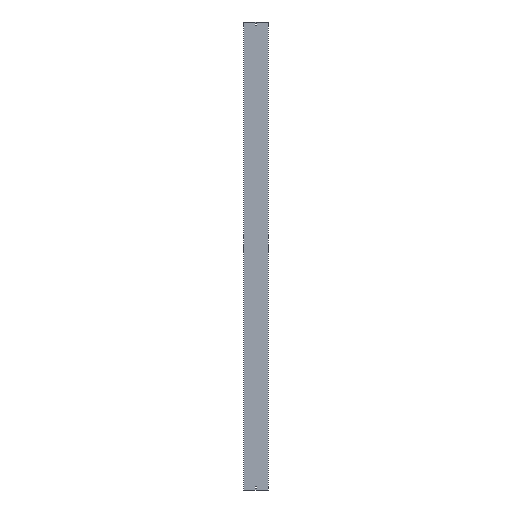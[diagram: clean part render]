
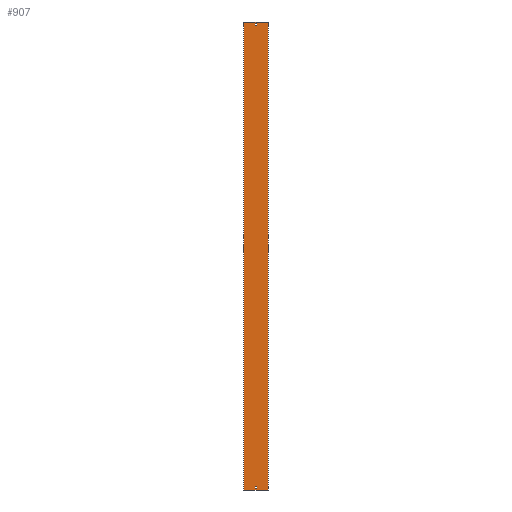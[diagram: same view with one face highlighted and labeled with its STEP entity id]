
A CAD part, front view. The second image highlights one B-rep face of the part: STEP entity #907.
In plain terms, the highlighted planar face has unit normal (0, -1, 0).
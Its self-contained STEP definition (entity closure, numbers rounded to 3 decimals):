
#10 = DIRECTION ( 'NONE',  ( -1., 0., 0. ) ) ;
#34 = ORIENTED_EDGE ( 'NONE', *, *, #1104, .F. ) ;
#46 = VERTEX_POINT ( 'NONE', #908 ) ;
#55 = LINE ( 'NONE', #238, #945 ) ;
#64 = CARTESIAN_POINT ( 'NONE',  ( 77., 0., -1500. ) ) ;
#87 = DIRECTION ( 'NONE',  ( 0., 0., -1. ) ) ;
#92 = LINE ( 'NONE', #801, #397 ) ;
#105 = LINE ( 'NONE', #635, #887 ) ;
#126 = FACE_OUTER_BOUND ( 'NONE', #954, .T. ) ;
#145 = ORIENTED_EDGE ( 'NONE', *, *, #696, .T. ) ;
#160 = ORIENTED_EDGE ( 'NONE', *, *, #614, .T. ) ;
#168 = CARTESIAN_POINT ( 'NONE',  ( -77., 0., 1500. ) ) ;
#181 = VERTEX_POINT ( 'NONE', #746 ) ;
#195 = CARTESIAN_POINT ( 'NONE',  ( -3.25, 0., 1488. ) ) ;
#200 = DIRECTION ( 'NONE',  ( -1., 0., 0. ) ) ;
#217 = EDGE_CURVE ( 'NONE', #446, #259, #922, .T. ) ;
#230 = EDGE_CURVE ( 'NONE', #453, #181, #55, .T. ) ;
#231 = VECTOR ( 'NONE', #405, 1000. ) ;
#238 = CARTESIAN_POINT ( 'NONE',  ( 3.25, 0., 1488. ) ) ;
#256 = LINE ( 'NONE', #951, #852 ) ;
#259 = VERTEX_POINT ( 'NONE', #64 ) ;
#260 = DIRECTION ( 'NONE',  ( 1., 0., 0. ) ) ;
#269 = VECTOR ( 'NONE', #200, 1000. ) ;
#270 = ORIENTED_EDGE ( 'NONE', *, *, #217, .T. ) ;
#308 = VECTOR ( 'NONE', #1062, 1000. ) ;
#333 = ORIENTED_EDGE ( 'NONE', *, *, #230, .F. ) ;
#341 = ORIENTED_EDGE ( 'NONE', *, *, #644, .T. ) ;
#358 = CARTESIAN_POINT ( 'NONE',  ( -3.25, 0., 1479. ) ) ;
#369 = VERTEX_POINT ( 'NONE', #990 ) ;
#394 = DIRECTION ( 'NONE',  ( -1., 0., 0. ) ) ;
#397 = VECTOR ( 'NONE', #643, 1000. ) ;
#405 = DIRECTION ( 'NONE',  ( 1., 0., 0. ) ) ;
#406 = ORIENTED_EDGE ( 'NONE', *, *, #554, .T. ) ;
#408 = CARTESIAN_POINT ( 'NONE',  ( -77., 0., 1500. ) ) ;
#423 = VERTEX_POINT ( 'NONE', #408 ) ;
#427 = VERTEX_POINT ( 'NONE', #750 ) ;
#443 = EDGE_LOOP ( 'NONE', ( #145, #341, #406, #840 ) ) ;
#446 = VERTEX_POINT ( 'NONE', #667 ) ;
#453 = VERTEX_POINT ( 'NONE', #1016 ) ;
#462 = ORIENTED_EDGE ( 'NONE', *, *, #927, .F. ) ;
#464 = EDGE_CURVE ( 'NONE', #181, #497, #719, .T. ) ;
#472 = LINE ( 'NONE', #985, #758 ) ;
#497 = VERTEX_POINT ( 'NONE', #601 ) ;
#534 = EDGE_CURVE ( 'NONE', #423, #606, #874, .T. ) ;
#551 = LINE ( 'NONE', #195, #965 ) ;
#554 = EDGE_CURVE ( 'NONE', #427, #1049, #256, .T. ) ;
#566 = CARTESIAN_POINT ( 'NONE',  ( -77., 0., 1500. ) ) ;
#601 = CARTESIAN_POINT ( 'NONE',  ( -3.25, 0., 1488. ) ) ;
#602 = VECTOR ( 'NONE', #260, 1000. ) ;
#606 = VERTEX_POINT ( 'NONE', #692 ) ;
#607 = LINE ( 'NONE', #168, #308 ) ;
#614 = EDGE_CURVE ( 'NONE', #423, #446, #607, .T. ) ;
#620 = LINE ( 'NONE', #358, #1103 ) ;
#635 = CARTESIAN_POINT ( 'NONE',  ( -3.25, 0., -1488. ) ) ;
#641 = DIRECTION ( 'NONE',  ( 0., 0., -1. ) ) ;
#643 = DIRECTION ( 'NONE',  ( 1., 0., 0. ) ) ;
#644 = EDGE_CURVE ( 'NONE', #1051, #427, #92, .T. ) ;
#667 = CARTESIAN_POINT ( 'NONE',  ( -77., 0., -1500. ) ) ;
#690 = EDGE_CURVE ( 'NONE', #46, #453, #620, .T. ) ;
#692 = CARTESIAN_POINT ( 'NONE',  ( 77., 0., 1500. ) ) ;
#696 = EDGE_CURVE ( 'NONE', #369, #1051, #105, .T. ) ;
#708 = ORIENTED_EDGE ( 'NONE', *, *, #534, .F. ) ;
#719 = LINE ( 'NONE', #1069, #269 ) ;
#723 = DIRECTION ( 'NONE',  ( 0., 0., 1. ) ) ;
#746 = CARTESIAN_POINT ( 'NONE',  ( 3.25, 0., 1488. ) ) ;
#749 = FACE_BOUND ( 'NONE', #950, .T. ) ;
#750 = CARTESIAN_POINT ( 'NONE',  ( 3.25, 0., -1479. ) ) ;
#751 = DIRECTION ( 'NONE',  ( 0., 0., 1. ) ) ;
#758 = VECTOR ( 'NONE', #10, 1000. ) ;
#774 = AXIS2_PLACEMENT_3D ( 'NONE', #566, #924, #394 ) ;
#788 = ORIENTED_EDGE ( 'NONE', *, *, #690, .F. ) ;
#801 = CARTESIAN_POINT ( 'NONE',  ( -3.25, 0., -1479. ) ) ;
#825 = CARTESIAN_POINT ( 'NONE',  ( 77., 0., 1500. ) ) ;
#833 = PLANE ( 'NONE',  #774 ) ;
#840 = ORIENTED_EDGE ( 'NONE', *, *, #1113, .T. ) ;
#852 = VECTOR ( 'NONE', #87, 1000. ) ;
#854 = CARTESIAN_POINT ( 'NONE',  ( -3.25, 0., -1479. ) ) ;
#869 = VECTOR ( 'NONE', #1093, 1000. ) ;
#871 = CARTESIAN_POINT ( 'NONE',  ( 3.25, 0., -1488. ) ) ;
#874 = LINE ( 'NONE', #955, #602 ) ;
#887 = VECTOR ( 'NONE', #723, 1000. ) ;
#907 = ADVANCED_FACE ( 'NONE', ( #126, #749, #931 ), #833, .F. ) ;
#908 = CARTESIAN_POINT ( 'NONE',  ( -3.25, 0., 1479. ) ) ;
#920 = LINE ( 'NONE', #825, #869 ) ;
#922 = LINE ( 'NONE', #939, #231 ) ;
#924 = DIRECTION ( 'NONE',  ( 0., 1., 0. ) ) ;
#927 = EDGE_CURVE ( 'NONE', #606, #259, #920, .T. ) ;
#931 = FACE_BOUND ( 'NONE', #443, .T. ) ;
#939 = CARTESIAN_POINT ( 'NONE',  ( -77., 0., -1500. ) ) ;
#945 = VECTOR ( 'NONE', #751, 1000. ) ;
#950 = EDGE_LOOP ( 'NONE', ( #788, #34, #1105, #333 ) ) ;
#951 = CARTESIAN_POINT ( 'NONE',  ( 3.25, 0., -1488. ) ) ;
#954 = EDGE_LOOP ( 'NONE', ( #270, #462, #708, #160 ) ) ;
#955 = CARTESIAN_POINT ( 'NONE',  ( -77., 0., 1500. ) ) ;
#965 = VECTOR ( 'NONE', #641, 1000. ) ;
#982 = DIRECTION ( 'NONE',  ( 1., 0., 0. ) ) ;
#985 = CARTESIAN_POINT ( 'NONE',  ( -3.25, 0., -1488. ) ) ;
#990 = CARTESIAN_POINT ( 'NONE',  ( -3.25, 0., -1488. ) ) ;
#1016 = CARTESIAN_POINT ( 'NONE',  ( 3.25, 0., 1479. ) ) ;
#1049 = VERTEX_POINT ( 'NONE', #871 ) ;
#1051 = VERTEX_POINT ( 'NONE', #854 ) ;
#1062 = DIRECTION ( 'NONE',  ( 0., 0., -1. ) ) ;
#1069 = CARTESIAN_POINT ( 'NONE',  ( -3.25, 0., 1488. ) ) ;
#1093 = DIRECTION ( 'NONE',  ( 0., 0., -1. ) ) ;
#1103 = VECTOR ( 'NONE', #982, 1000. ) ;
#1104 = EDGE_CURVE ( 'NONE', #497, #46, #551, .T. ) ;
#1105 = ORIENTED_EDGE ( 'NONE', *, *, #464, .F. ) ;
#1113 = EDGE_CURVE ( 'NONE', #1049, #369, #472, .T. ) ;
